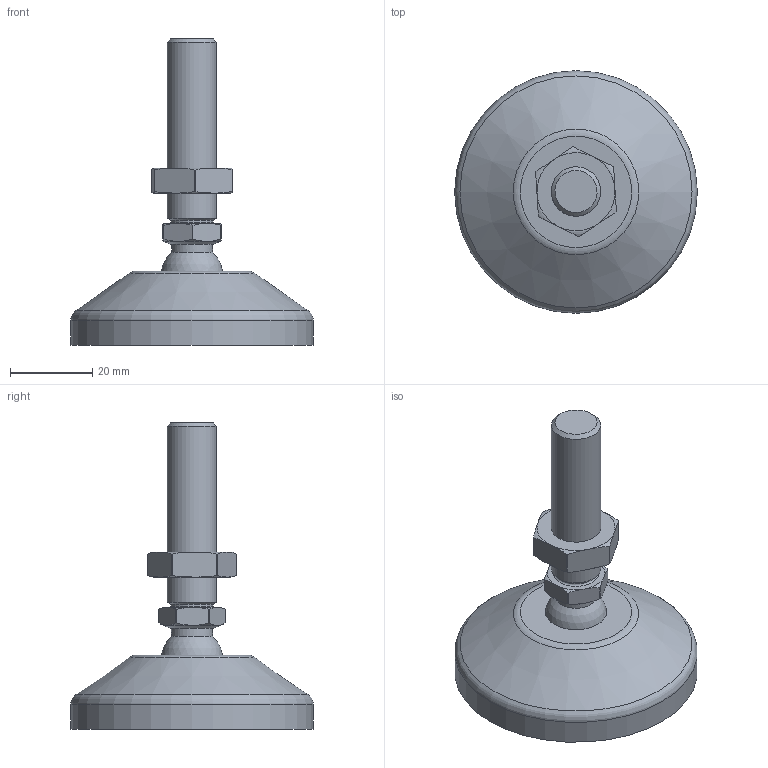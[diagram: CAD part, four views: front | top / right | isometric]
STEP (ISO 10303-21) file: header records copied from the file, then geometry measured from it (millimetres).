
FILE_DESCRIPTION(('STEP AP242'),'1');
FILE_NAME('TAPID60M12045PA.stp','2026-10-12T10:13:43',(' '),(' '),'Spatial InterOp 3D',' ',' ');
FILE_SCHEMA(('AP242_MANAGED_MODEL_BASED_3D_ENGINEERING_MIM_LF {1 0 10303 442 1 1 4}'));
Length unit declared in the file: millimetre
Products named in the file (5): Pied Ø60 M12x45 articulé réglable (+/- 7,5mm); Ecrou H DIN 439 M12; Tige filetée M12x45 (Ø15); Embase PA Ø60 (Ø15); TAPID60M12045PA
Assembly tree (4 placements, depth 3):
  TAPID60M12045PA
    Pied Ø60 M12x45 articulé réglable (+/- 7,5mm)
      Ecrou H DIN 439 M12
      Tige filetée M12x45 (Ø15)
      Embase PA Ø60 (Ø15)
Bounding box: 59 x 59 x 74.5 mm (x, y, z)
Volume: 35834.7 mm3; surface area: 12230.2 mm2
Topology: 3 solids, 4 shells, 80 faces, 174 edges, 104 vertices
Faces by surface type: torus 30, plane 22, cylinder 20, cone 6, sphere 2
Full cylindrical faces by diameter (mm): 10 x1, 10.2 x1, 10.25 x1, 12 x1, 15 x2, 51 x1, 59 x1
Entity records: 3397 total; most frequent: CARTESIAN_POINT 909, DIRECTION 346, ORIENTED_EDGE 294, AXIS2_PLACEMENT_3D 161, EDGE_CURVE 147, EDGE_LOOP 106, VERTEX_POINT 99, FACE_OUTER_BOUND 94
